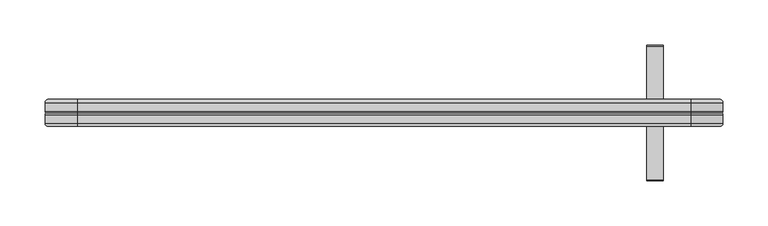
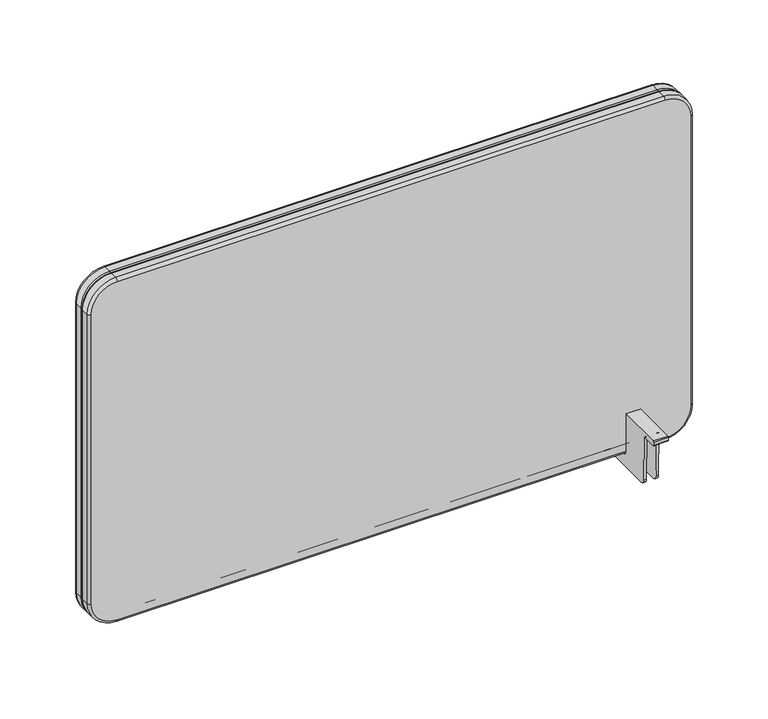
"""IFC4 building model written with IfcOpenShell, lengths in millimetres: furniture geometry, Vitra-Joyn_2-Accesories_rfa : Joyn 2 Platform - Central screen."""

import ifcopenshell
import ifcopenshell.guid

model = None  # the IFC model being written
_history = None  # IfcOwnerHistory: only IFC2X3 demands one
_inside = {}  # id of a spatial element -> (the spatial element, [elements in it])
_under = {}  # id of a project, library or spatial element -> (it, [spatial elements below it])
_declared = {}  # id of a project -> (the project, [libraries it declares])
_typed = {}  # id of a type object -> (the type object, [elements of that type])
_made_of = {}  # id of a material, layer set ... -> (it, [elements and type objects made of it])


def new_model(schema):
    """Start an empty IFC model of exactly this schema.

    Asked for "IFC4X3", IfcOpenShell would pick the latest addendum, in which some entities
    have other attributes; the version numbers below select the first issue.
    IFC2X3 requires an IfcOwnerHistory on every rooted entity: one is made here for all.
    """
    global model, _history
    if schema == "IFC4X3":
        model = ifcopenshell.file(schema_version=(4, 3, 0, 0))
    else:
        model = ifcopenshell.file(schema=schema)
    _inside.clear()
    _under.clear()
    _declared.clear()
    _typed.clear()
    _made_of.clear()
    _history = None
    if model.schema == "IFC2X3":
        org = make("IfcOrganization", Name="unknown")
        user = make(
            "IfcPersonAndOrganization",
            ThePerson=make("IfcPerson", FamilyName="unknown"),
            TheOrganization=org,
        )
        app = make(
            "IfcApplication",
            ApplicationDeveloper=org,
            Version="unknown",
            ApplicationFullName="unknown",
            ApplicationIdentifier="unknown",
        )
        _history = make(
            "IfcOwnerHistory",
            OwningUser=user,
            OwningApplication=app,
            ChangeAction="ADDED",
            CreationDate=0,
        )
    return model


def make(cls, **values):
    """One entity of the class cls with the attributes given. An attribute that is None is left unset."""
    return model.create_entity(
        cls, **{name: value for name, value in values.items() if value is not None}
    )


def rooted(cls, **values):
    """An entity with a GlobalId (a new one), such as an element, a storey or a relation."""
    return make(cls, GlobalId=ifcopenshell.guid.new(), OwnerHistory=_history, **values)


def si_unit(unit_type, name, prefix=None):
    """IfcSIUnit, for example si_unit("LENGTHUNIT", "METRE", prefix="MILLI")."""
    return make("IfcSIUnit", UnitType=unit_type, Prefix=prefix, Name=name)


def assignment(units):
    """IfcUnitAssignment: the units of a project."""
    return None if units is None else make("IfcUnitAssignment", Units=units)


def point(xyz):
    """IfcCartesianPoint."""
    return None if xyz is None else make("IfcCartesianPoint", Coordinates=xyz)


def direction(xyz):
    """IfcDirection."""
    return None if xyz is None else make("IfcDirection", DirectionRatios=xyz)


def frame(location, z_axis=None, x_axis=None):
    """IfcAxis2Placement3D, a coordinate frame: its origin and axes. An axis left out is left unset."""
    return make(
        "IfcAxis2Placement3D",
        Location=point(location),
        Axis=direction(z_axis),
        RefDirection=direction(x_axis),
    )


def origin():
    """The frame at (0, 0, 0) with its axes left unset."""
    return frame((0.0, 0.0, 0.0))


def place(relative_to, where):
    """IfcLocalPlacement: puts the frame where relative to a parent placement (None: the world)."""
    return make(
        "IfcLocalPlacement", PlacementRelTo=relative_to, RelativePlacement=where
    )


def context(
    kind, dimensions, precision=None, world=None, true_north=None, identifier=None
):
    """IfcGeometricRepresentationContext, for example the 3D "Model" context."""
    return make(
        "IfcGeometricRepresentationContext",
        ContextIdentifier=identifier,
        ContextType=kind,
        CoordinateSpaceDimension=dimensions,
        Precision=precision,
        WorldCoordinateSystem=world,
        TrueNorth=true_north,
    )


def project(units=None, contexts=None):
    """IfcProject with its units and contexts."""
    return rooted(
        "IfcProject",
        Name="project",
        RepresentationContexts=contexts,
        UnitsInContext=assignment(units),
    )


def spatial(cls, under=None, at=None, **own):
    """A site, building, storey or space (cls), placed at a placement, below another one or the project."""
    s = rooted(cls, ObjectPlacement=at, **own)
    if under is not None:
        _under.setdefault(under.id(), (under, []))[1].append(s)
    return s


def polyline(points):
    """IfcPolyline through the points."""
    return make("IfcPolyline", Points=[point(p) for p in points])


def circle_curve(where, radius):
    """IfcCircle in the frame where."""
    return make("IfcCircle", Position=where, Radius=radius)


def ellipse_curve(where, semi_axis1, semi_axis2):
    """IfcEllipse in the frame where."""
    return make(
        "IfcEllipse", Position=where, SemiAxis1=semi_axis1, SemiAxis2=semi_axis2
    )


def trimmed(basis, trim1, trim2, sense, master):
    """IfcTrimmedCurve: the piece of a basis curve between two trims."""
    return make(
        "IfcTrimmedCurve",
        BasisCurve=basis,
        Trim1=trim1,
        Trim2=trim2,
        SenseAgreement=sense,
        MasterRepresentation=master,
    )


def shape(context_of_items, identifier, shape_type, items):
    """IfcShapeRepresentation: the items that make up one representation, for example the "Body"."""
    return make(
        "IfcShapeRepresentation",
        ContextOfItems=context_of_items,
        RepresentationIdentifier=identifier,
        RepresentationType=shape_type,
        Items=items,
    )


def source(mapping_origin, context_of_items, identifier, shape_type, items):
    """IfcRepresentationMap: a shape defined once, which mapped items show again and again."""
    return make(
        "IfcRepresentationMap",
        MappingOrigin=mapping_origin,
        MappedRepresentation=shape(context_of_items, identifier, shape_type, items),
    )


def transform(
    local_origin,
    x_axis=None,
    y_axis=None,
    z_axis=None,
    scale=None,
    scale2=None,
    scale3=None,
    uniform=True,
):
    """IfcCartesianTransformationOperator3D, or its non-uniform kind. x_axis, y_axis, z_axis: its Axis1, 2, 3."""
    if uniform:
        return make(
            "IfcCartesianTransformationOperator3D",
            Axis1=direction(x_axis),
            Axis2=direction(y_axis),
            LocalOrigin=point(local_origin),
            Scale=scale,
            Axis3=direction(z_axis),
        )
    return make(
        "IfcCartesianTransformationOperator3DnonUniform",
        Axis1=direction(x_axis),
        Axis2=direction(y_axis),
        LocalOrigin=point(local_origin),
        Scale=scale,
        Axis3=direction(z_axis),
        Scale2=scale2,
        Scale3=scale3,
    )


def mapped(mapping_source, mapping_target):
    """IfcMappedItem: shows the shape of a source again, moved by a transform."""
    return make(
        "IfcMappedItem", MappingSource=mapping_source, MappingTarget=mapping_target
    )


def made_of(thing, what):
    """Note that an element or type object is made of a material, layer set ...; save() writes the relation."""
    if what is not None:
        _made_of.setdefault(what.id(), (what, []))[1].append(thing)
    return thing


def element(
    cls,
    number,
    at=None,
    inside=None,
    cuts=None,
    type_object=None,
    material=None,
    context=None,
    identifier="Body",
    shape_type=None,
    held_by="IfcProductDefinitionShape",
    body=None,
    shapes=None,
    **own,
):
    """One element of the class cls, such as IfcWall. Its Tag is "e" and its number.

    at: its placement. inside: the storey or other place that contains it. cuts: it is an
    opening in that element (IfcRelVoidsElement). A single representation is given by context,
    identifier, shape_type and body (its items); several are given by shapes. held_by: the class
    of the entity that holds the representations. save() writes the other relations.
    """
    e = rooted(cls, Tag="e%d" % number, ObjectPlacement=at, **own)
    if body is not None:
        shapes = [shape(context, identifier, shape_type, body)]
    if shapes is not None:
        e.Representation = make(held_by, Representations=shapes)
    if inside is not None:
        _inside.setdefault(inside.id(), (inside, []))[1].append(e)
    if cuts is not None:
        rooted(
            "IfcRelVoidsElement", RelatingBuildingElement=cuts, RelatedOpeningElement=e
        )
    if type_object is not None:
        _typed.setdefault(type_object.id(), (type_object, []))[1].append(e)
    return made_of(e, material)


def aggregate(whole, parts):
    """IfcRelAggregates: a whole, such as a stair, and the parts it consists of."""
    return rooted("IfcRelAggregates", RelatingObject=whole, RelatedObjects=parts)


def save(model, path):
    """Write the relations noted so far, then the file.

    IfcRelAggregates (storeys below a building ...), IfcRelContainedInSpatialStructure (elements
    in a storey), IfcRelDefinesByType, IfcRelAssociatesMaterial and IfcRelDeclares: one each for
    every whole, place, type object, material and project.
    """
    for whole, parts in _under.values():
        aggregate(whole, parts)
    for where, things in _inside.values():
        rooted(
            "IfcRelContainedInSpatialStructure",
            RelatedElements=things,
            RelatingStructure=where,
        )
    for kind, things in _typed.values():
        rooted("IfcRelDefinesByType", RelatedObjects=things, RelatingType=kind)
    for what, things in _made_of.values():
        rooted("IfcRelAssociatesMaterial", RelatedObjects=things, RelatingMaterial=what)
    for by, libraries in _declared.values():
        rooted("IfcRelDeclares", RelatingContext=by, RelatedDefinitions=libraries)
    model.write(path)


def plane_surface(at):
    """IfcPlane: the flat surface through the origin of the frame at, square to its z axis."""
    return make("IfcPlane", Position=at)


def cylinder_surface(at, radius):
    """IfcCylindricalSurface: all points at the distance radius from the z axis of the frame at."""
    return make("IfcCylindricalSurface", Position=at, Radius=radius)


def revolved_surface(curve, axis_point, axis_direction):
    """IfcSurfaceOfRevolution: the curve turned about the line through axis_point along axis_direction."""
    return make(
        "IfcSurfaceOfRevolution",
        SweptCurve=make("IfcArbitraryOpenProfileDef", ProfileType="CURVE", Curve=curve),
        AxisPosition=make("IfcAxis1Placement", Location=point(axis_point), Axis=direction(axis_direction)),
    )


def advanced_brep(points, edges, surfaces, faces):
    """IfcAdvancedBrep: a solid bounded by faces that lie on surfaces and meet in shared edges.

    An edge is (start, end): straight between two places in points (the first is 0);
    or (start, end, curve); or (start, end, curve, False) where it runs against its curve.
    A face is (place in surfaces, loops), or (place, loops, False) where it looks against
    its surface's normal. A loop lists edges by number (the first is 1), with a minus sign
    where the edge is run from its end to its start. The first loop is the outer one.
    """
    corners = [point(p) for p in points]
    vertices = [make("IfcVertexPoint", VertexGeometry=c) for c in corners]
    made = []
    for start, end, *more in edges:
        made.append(
            make(
                "IfcEdgeCurve",
                EdgeStart=vertices[start],
                EdgeEnd=vertices[end],
                EdgeGeometry=more[0] if more else make("IfcPolyline", Points=[corners[start], corners[end]]),
                SameSense=more[1] if len(more) > 1 else True,
            )
        )
    hull = []
    for where, loops, *sense in faces:
        bounds = []
        for j, loop in enumerate(loops):
            ring = [make("IfcOrientedEdge", EdgeElement=made[abs(k) - 1], Orientation=k > 0) for k in loop]
            bounds.append(
                make(
                    "IfcFaceOuterBound" if j == 0 else "IfcFaceBound",
                    Bound=make("IfcEdgeLoop", EdgeList=ring),
                    Orientation=True,
                )
            )
        hull.append(make("IfcAdvancedFace", Bounds=bounds, FaceSurface=surfaces[where], SameSense=sense[0] if sense else True))
    return make("IfcAdvancedBrep", Outer=make("IfcClosedShell", CfsFaces=hull))


def furniture_290953c2(model_context):
    return source(origin(), model_context, "Body", "AdvancedBrep", [
        advanced_brep(
        [(-339.48846, -15.0, 1139.6440871), (-371.48846, -15.0, 1107.6440871), (-371.48846, -15.0, 728.6604301), (-339.48846, -15.0, 696.6604301), (339.49464, -15.0, 696.6604301), (371.49464, -15.0, 728.6604301), (371.49464, -15.0, 1107.6440871), (339.49464, -15.0, 1139.6440871), (-371.48846, 15.0, 1107.6440849), (-339.48846, 15.0, 1139.6440871), (339.49464, 15.0, 1139.6440871), (371.49464, 15.0, 1107.6440871), (371.49464, 15.0, 728.6604314), (339.49464, 15.0, 696.6604301), (-339.4884579, 15.0, 696.6604301), (-371.48846, 15.0, 728.6604301), (-374.98846, 11.5, 1107.6440871), (-339.48846, 11.5, 1143.1440871), (-374.98846, 2.0, 1107.6440871), (-339.48846, 2.0, 1143.1440871), (-372.9920624, 0.0, 1107.6440871), (-339.48846, 0.0, 1141.1476895), (-374.98846, -2.0, 1107.6440871), (-339.48846, -2.0, 1143.1440871), (-374.98846, -11.5, 1107.6440871), (-339.48846, -11.5, 1143.1440871), (-374.98846, 11.5, 728.6604301), (-374.98846, 2.0, 728.6604301), (-372.9920624, 0.0, 728.6604301), (-374.98846, -2.0, 728.6604301), (-374.98846, -11.5, 728.6604301), (339.49464, 11.5, 1143.1440871), (339.49464, 2.0, 1143.1440871), (339.49464, 0.0, 1141.1476895), (339.49464, -2.0, 1143.1440871), (339.49464, -11.5, 1143.1440871), (-339.48846, 11.5, 693.1604301), (-339.48846, 2.0, 693.1604301), (-339.48846, 0.0, 695.1568276), (-339.48846, -2.0, 693.1604301), (-339.48846, -11.5, 693.1604301), (339.49464, 11.5, 693.1604301), (339.49464, 2.0, 693.1604301), (339.49464, 0.0, 695.1568276), (339.49464, -2.0, 693.1604301), (339.49464, -11.5, 693.1604301), (374.99464, 11.5, 728.6604301), (374.99464, 2.0, 728.6604301), (372.9982424, 0.0, 728.6604301), (374.99464, -2.0, 728.6604301), (374.99464, -11.5, 728.6604301), (374.99464, 11.5, 1107.6440871), (374.99464, 2.0, 1107.6440871), (372.9982424, 0.0, 1107.6440871), (374.99464, -2.0, 1107.6440871), (374.99464, -11.5, 1107.6440871)],
        [
            (0, 1, circle_curve(frame((-339.48846, -15.0, 1107.6440871), z_axis=(0.0, -1.0, 0.0), x_axis=(0.0, 0.0, 1.0)), 32.0)),
            (1, 2),
            (2, 3, circle_curve(frame((-339.48846, -15.0, 728.6604301), z_axis=(0.0, -1.0, 0.0), x_axis=(-1.0, 0.0, 0.0)), 32.0)),
            (3, 4),
            (4, 5, circle_curve(frame((339.49464, -15.0, 728.6604301), z_axis=(0.0, -1.0, 0.0), x_axis=(0.0, 0.0, -1.0)), 32.0)),
            (5, 6),
            (6, 7, circle_curve(frame((339.49464, -15.0, 1107.6440871), z_axis=(0.0, -1.0, 0.0), x_axis=(1.0, 0.0, 0.0)), 32.0)),
            (7, 0),
            (8, 9, circle_curve(frame((-339.48846, 15.0, 1107.6440871), z_axis=(0.0, 1.0, 0.0), x_axis=(0.0, 0.0, 1.0)), 32.0)),
            (9, 10),
            (10, 11, circle_curve(frame((339.49464, 15.0, 1107.6440871), z_axis=(0.0, 1.0, 0.0), x_axis=(1.0, 0.0, 0.0)), 32.0)),
            (11, 12),
            (12, 13, circle_curve(frame((339.49464, 15.0, 728.6604301), z_axis=(0.0, 1.0, 0.0), x_axis=(0.0, 0.0, -1.0)), 32.0)),
            (13, 14),
            (14, 15, circle_curve(frame((-339.48846, 15.0, 728.6604301), z_axis=(0.0, 1.0, 0.0), x_axis=(-1.0, 0.0, 0.0)), 32.0)),
            (15, 8),
            (16, 17, circle_curve(frame((-339.48846, 11.5, 1107.6440871), z_axis=(0.0, 1.0, 0.0), x_axis=(0.0, 0.0, 1.0)), 35.5)),
            (17, 9, circle_curve(frame((-339.48846, 11.5, 1139.6440871), z_axis=(-1.0, 0.0, 0.0), x_axis=(0.0, -1.0, 0.0)), 3.5)),
            (8, 16, circle_curve(frame((-371.48846, 11.5, 1107.6440871), z_axis=(0.0, 0.0, 1.0), x_axis=(0.0, -1.0, 0.0)), 3.5)),
            (16, 18),
            (18, 19, circle_curve(frame((-339.48846, 2.0, 1107.6440871), z_axis=(0.0, 1.0, 0.0), x_axis=(0.0, 0.0, 1.0)), 35.5)),
            (19, 17),
            (18, 20, circle_curve(frame((-372.9884567, 2.0, 1107.6440871), z_axis=(0.0, 0.0, 1.0), x_axis=(0.0, -1.0, 0.0)), 2.0000033)),
            (20, 21, circle_curve(frame((-339.48846, 0.0, 1107.6440871), z_axis=(0.0, 1.0, 0.0), x_axis=(0.0, 0.0, 1.0)), 33.5036024)),
            (21, 19, circle_curve(frame((-339.48846, 2.0, 1141.1440838), z_axis=(-1.0, 0.0, 0.0), x_axis=(0.0, -1.0, 0.0)), 2.0000033)),
            (20, 22, circle_curve(frame((-372.9884567, -2.0, 1107.6440871), z_axis=(0.0, 0.0, 1.0), x_axis=(0.0, 1.0, 0.0)), 2.0000033)),
            (22, 23, circle_curve(frame((-339.48846, -2.0, 1107.6440871), z_axis=(0.0, 1.0, 0.0), x_axis=(0.0, 0.0, 1.0)), 35.5)),
            (23, 21, circle_curve(frame((-339.48846, -2.0, 1141.1440838), z_axis=(-1.0, 0.0, 0.0), x_axis=(0.0, 1.0, 0.0)), 2.0000033)),
            (22, 24),
            (24, 25, circle_curve(frame((-339.48846, -11.5, 1107.6440871), z_axis=(0.0, 1.0, 0.0), x_axis=(0.0, 0.0, 1.0)), 35.5)),
            (25, 23),
            (24, 1, circle_curve(frame((-371.48846, -11.5, 1107.6440871), z_axis=(0.0, 0.0, 1.0), x_axis=(0.0, 1.0, 0.0)), 3.5)),
            (0, 25, circle_curve(frame((-339.48846, -11.5, 1139.6440871), z_axis=(-1.0, 0.0, 0.0), x_axis=(0.0, 1.0, 0.0)), 3.5)),
            (15, 26, circle_curve(frame((-371.48846, 11.5, 728.6604301), z_axis=(0.0, 0.0, 1.0), x_axis=(0.0, -1.0, 0.0)), 3.5)),
            (26, 16),
            (26, 27),
            (27, 18),
            (27, 28, circle_curve(frame((-372.9884567, 2.0, 728.6604301), z_axis=(0.0, 0.0, 1.0), x_axis=(0.0, -1.0, 0.0)), 2.0000033)),
            (28, 20),
            (28, 29, circle_curve(frame((-372.9884567, -2.0, 728.6604301), z_axis=(0.0, 0.0, 1.0), x_axis=(0.0, 1.0, 0.0)), 2.0000033)),
            (29, 22),
            (29, 30),
            (30, 24),
            (30, 2, circle_curve(frame((-371.48846, -11.5, 728.6604301), z_axis=(0.0, 0.0, 1.0), x_axis=(0.0, 1.0, 0.0)), 3.5)),
            (17, 31),
            (31, 10, circle_curve(frame((339.49464, 11.5, 1139.6440871), z_axis=(-1.0, 0.0, 0.0), x_axis=(0.0, -1.0, 0.0)), 3.5)),
            (19, 32),
            (32, 31),
            (21, 33),
            (33, 32, circle_curve(frame((339.49464, 2.0, 1141.1440838), z_axis=(-1.0, 0.0, 0.0), x_axis=(0.0, -1.0, 0.0)), 2.0000033)),
            (23, 34),
            (34, 33, circle_curve(frame((339.49464, -2.0, 1141.1440838), z_axis=(-1.0, 0.0, 0.0), x_axis=(0.0, 1.0, 0.0)), 2.0000033)),
            (25, 35),
            (35, 34),
            (7, 35, circle_curve(frame((339.49464, -11.5, 1139.6440871), z_axis=(-1.0, 0.0, 0.0), x_axis=(0.0, 1.0, 0.0)), 3.5)),
            (14, 36, circle_curve(frame((-339.48846, 11.5, 696.6604301), z_axis=(-1.0, 0.0, 0.0), x_axis=(0.0, -1.0, 0.0)), 3.5)),
            (36, 26, circle_curve(frame((-339.48846, 11.5, 728.6604301), z_axis=(0.0, 1.0, 0.0), x_axis=(-1.0, 0.0, 0.0)), 35.5)),
            (36, 37),
            (37, 27, circle_curve(frame((-339.48846, 2.0, 728.6604301), z_axis=(0.0, 1.0, 0.0), x_axis=(-1.0, 0.0, 0.0)), 35.5)),
            (37, 38, circle_curve(frame((-339.48846, 2.0, 695.1604333), z_axis=(-1.0, 0.0, 0.0), x_axis=(0.0, -1.0, 0.0)), 2.0000033)),
            (38, 28, circle_curve(frame((-339.48846, 0.0, 728.6604301), z_axis=(0.0, 1.0, 0.0), x_axis=(-1.0, 0.0, 0.0)), 33.5036024)),
            (38, 39, circle_curve(frame((-339.48846, -2.0, 695.1604333), z_axis=(-1.0, 0.0, 0.0), x_axis=(0.0, 1.0, 0.0)), 2.0000033)),
            (39, 29, circle_curve(frame((-339.48846, -2.0, 728.6604301), z_axis=(0.0, 1.0, 0.0), x_axis=(-1.0, 0.0, 0.0)), 35.5)),
            (39, 40),
            (40, 30, circle_curve(frame((-339.48846, -11.5, 728.6604301), z_axis=(0.0, 1.0, 0.0), x_axis=(-1.0, 0.0, 0.0)), 35.5)),
            (40, 3, circle_curve(frame((-339.48846, -11.5, 696.6604301), z_axis=(-1.0, 0.0, 0.0), x_axis=(0.0, 1.0, 0.0)), 3.5)),
            (13, 41, circle_curve(frame((339.49464, 11.5, 696.6604301), z_axis=(-1.0, 0.0, 0.0), x_axis=(0.0, -1.0, 0.0)), 3.5)),
            (41, 36),
            (41, 42),
            (42, 37),
            (42, 43, circle_curve(frame((339.49464, 2.0, 695.1604333), z_axis=(-1.0, 0.0, 0.0), x_axis=(0.0, -1.0, 0.0)), 2.0000033)),
            (43, 38),
            (43, 44, circle_curve(frame((339.49464, -2.0, 695.1604333), z_axis=(-1.0, 0.0, 0.0), x_axis=(0.0, 1.0, 0.0)), 2.0000033)),
            (44, 39),
            (44, 45),
            (45, 40),
            (45, 4, circle_curve(frame((339.49464, -11.5, 696.6604301), z_axis=(-1.0, 0.0, 0.0), x_axis=(0.0, 1.0, 0.0)), 3.5)),
            (12, 46, circle_curve(frame((371.49464, 11.5, 728.6604301), z_axis=(0.0, 0.0, -1.0), x_axis=(0.0, -1.0, 0.0)), 3.5)),
            (46, 41, circle_curve(frame((339.49464, 11.5, 728.6604301), z_axis=(0.0, 1.0, 0.0), x_axis=(0.0, 0.0, -1.0)), 35.5)),
            (46, 47),
            (47, 42, circle_curve(frame((339.49464, 2.0, 728.6604301), z_axis=(0.0, 1.0, 0.0), x_axis=(0.0, 0.0, -1.0)), 35.5)),
            (47, 48, circle_curve(frame((372.9946367, 2.0, 728.6604301), z_axis=(0.0, 0.0, -1.0), x_axis=(0.0, -1.0, 0.0)), 2.0000033)),
            (48, 43, circle_curve(frame((339.49464, 0.0, 728.6604301), z_axis=(0.0, 1.0, 0.0), x_axis=(0.0, 0.0, -1.0)), 33.5036024)),
            (48, 49, circle_curve(frame((372.9946367, -2.0, 728.6604301), z_axis=(0.0, 0.0, -1.0), x_axis=(0.0, 1.0, 0.0)), 2.0000033)),
            (49, 44, circle_curve(frame((339.49464, -2.0, 728.6604301), z_axis=(0.0, 1.0, 0.0), x_axis=(0.0, 0.0, -1.0)), 35.5)),
            (49, 50),
            (50, 45, circle_curve(frame((339.49464, -11.5, 728.6604301), z_axis=(0.0, 1.0, 0.0), x_axis=(0.0, 0.0, -1.0)), 35.5)),
            (50, 5, circle_curve(frame((371.49464, -11.5, 728.6604301), z_axis=(0.0, 0.0, -1.0), x_axis=(0.0, 1.0, 0.0)), 3.5)),
            (11, 51, circle_curve(frame((371.49464, 11.5, 1107.6440871), z_axis=(0.0, 0.0, -1.0), x_axis=(0.0, -1.0, 0.0)), 3.5)),
            (51, 46),
            (51, 52),
            (52, 47),
            (52, 53, circle_curve(frame((372.9946367, 2.0, 1107.6440871), z_axis=(0.0, 0.0, -1.0), x_axis=(0.0, -1.0, 0.0)), 2.0000033)),
            (53, 48),
            (53, 54, circle_curve(frame((372.9946367, -2.0, 1107.6440871), z_axis=(0.0, 0.0, -1.0), x_axis=(0.0, 1.0, 0.0)), 2.0000033)),
            (54, 49),
            (54, 55),
            (55, 50),
            (55, 6, circle_curve(frame((371.49464, -11.5, 1107.6440871), z_axis=(0.0, 0.0, -1.0), x_axis=(0.0, 1.0, 0.0)), 3.5)),
            (31, 51, circle_curve(frame((339.49464, 11.5, 1107.6440871), z_axis=(0.0, 1.0, 0.0), x_axis=(1.0, 0.0, 0.0)), 35.5)),
            (32, 52, circle_curve(frame((339.49464, 2.0, 1107.6440871), z_axis=(0.0, 1.0, 0.0), x_axis=(1.0, 0.0, 0.0)), 35.5)),
            (33, 53, circle_curve(frame((339.49464, 0.0, 1107.6440871), z_axis=(0.0, 1.0, 0.0), x_axis=(1.0, 0.0, 0.0)), 33.5036024)),
            (34, 54, circle_curve(frame((339.49464, -2.0, 1107.6440871), z_axis=(0.0, 1.0, 0.0), x_axis=(1.0, 0.0, 0.0)), 35.5)),
            (35, 55, circle_curve(frame((339.49464, -11.5, 1107.6440871), z_axis=(0.0, 1.0, 0.0), x_axis=(1.0, 0.0, 0.0)), 35.5)),
        ],
        [
            plane_surface(frame((-307.48846, -15.0, 728.6604301), z_axis=(0.0, -1.0, 0.0), x_axis=(0.0, 0.0, 1.0))),
            plane_surface(frame((-307.48846, 15.0, 728.6604301), z_axis=(0.0, 1.0, 0.0), x_axis=(0.0, 0.0, -1.0))),
            revolved_surface(trimmed(ellipse_curve(frame((-339.48846, 11.5, 1139.6440871), z_axis=(1.0, 0.0, 0.0), x_axis=(0.0, -1.0, 0.0)), 3.5, 3.5), [point((-339.48846, 15.0, 1139.6440871))], [point((-339.48846, 11.5, 1143.1440871))], True, "CARTESIAN"), (-339.48846, -15.0, 1107.6440871), (0.0, -1.0, 0.0)),
            cylinder_surface(frame((-339.48846, -15.0, 1107.6440871), z_axis=(0.0, -1.0, 0.0), x_axis=(0.0, 0.0, 1.0)), 35.5),
            revolved_surface(trimmed(ellipse_curve(frame((-339.48846, 2.0, 1141.1440838), z_axis=(1.0, 0.0, 0.0), x_axis=(0.0, -1.0, 0.0)), 2.0000033, 2.0000033), [point((-339.48846, 2.0, 1143.1440871))], [point((-339.48846, 0.0, 1141.1476895))], True, "CARTESIAN"), (-339.48846, -15.0, 1107.6440871), (0.0, -1.0, 0.0)),
            revolved_surface(trimmed(ellipse_curve(frame((-339.48846, -2.0, 1141.1440838), z_axis=(1.0, 0.0, 0.0), x_axis=(0.0, 1.0, 0.0)), 2.0000033, 2.0000033), [point((-339.48846, 0.0, 1141.1476895))], [point((-339.48846, -2.0, 1143.1440871))], True, "CARTESIAN"), (-339.48846, -15.0, 1107.6440871), (0.0, -1.0, 0.0)),
            revolved_surface(trimmed(ellipse_curve(frame((-339.48846, -11.5, 1139.6440871), z_axis=(1.0, 0.0, 0.0), x_axis=(0.0, 1.0, 0.0)), 3.5, 3.5), [point((-339.48846, -11.5, 1143.1440871))], [point((-339.48846, -15.0, 1139.6440871))], True, "CARTESIAN"), (-339.48846, -15.0, 1107.6440871), (0.0, -1.0, 0.0)),
            cylinder_surface(frame((-371.48846, 11.5, 1107.6440871), z_axis=(0.0, 0.0, 1.0), x_axis=(0.0, -1.0, 0.0)), 3.5),
            plane_surface(frame((-374.98846, 11.5, 1107.6440871), z_axis=(-1.0, 0.0, 0.0), x_axis=(0.0, 0.0, -1.0))),
            cylinder_surface(frame((-372.9884567, 2.0, 1107.6440871), z_axis=(0.0, 0.0, 1.0), x_axis=(0.0, -1.0, 0.0)), 2.0000033),
            cylinder_surface(frame((-372.9884567, -2.0, 1107.6440871), z_axis=(0.0, 0.0, 1.0), x_axis=(0.0, 1.0, 0.0)), 2.0000033),
            plane_surface(frame((-374.98846, -2.0, 1107.6440871), z_axis=(-1.0, 0.0, 0.0), x_axis=(0.0, 0.0, -1.0))),
            cylinder_surface(frame((-371.48846, -11.5, 1107.6440871), z_axis=(0.0, 0.0, 1.0), x_axis=(0.0, 1.0, 0.0)), 3.5),
            cylinder_surface(frame((339.49464, 11.5, 1139.6440871), z_axis=(1.0, 0.0, 0.0), x_axis=(0.0, -1.0, 0.0)), 3.5),
            plane_surface(frame((339.49464, 11.5, 1143.1440871), z_axis=(0.0, 0.0, 1.0), x_axis=(-1.0, 0.0, 0.0))),
            cylinder_surface(frame((339.49464, 2.0, 1141.1440838), z_axis=(1.0, 0.0, 0.0), x_axis=(0.0, -1.0, 0.0)), 2.0000033),
            cylinder_surface(frame((339.49464, -2.0, 1141.1440838), z_axis=(1.0, 0.0, 0.0), x_axis=(0.0, 1.0, 0.0)), 2.0000033),
            plane_surface(frame((339.49464, -2.0, 1143.1440871), z_axis=(0.0, 0.0, 1.0), x_axis=(-1.0, 0.0, 0.0))),
            cylinder_surface(frame((339.49464, -11.5, 1139.6440871), z_axis=(1.0, 0.0, 0.0), x_axis=(0.0, 1.0, 0.0)), 3.5),
            revolved_surface(trimmed(ellipse_curve(frame((-371.48846, 11.5, 728.6604301), z_axis=(0.0, 0.0, 1.0), x_axis=(0.0, -1.0, 0.0)), 3.5, 3.5), [point((-371.48846, 15.0, 728.6604301))], [point((-374.98846, 11.5, 728.6604301))], True, "CARTESIAN"), (-339.48846, -15.0, 728.6604301), (0.0, -1.0, 0.0)),
            cylinder_surface(frame((-339.48846, -15.0, 728.6604301), z_axis=(0.0, -1.0, 0.0), x_axis=(-1.0, 0.0, 0.0)), 35.5),
            revolved_surface(trimmed(ellipse_curve(frame((-372.9884567, 2.0, 728.6604301), z_axis=(0.0, 0.0, 1.0), x_axis=(0.0, -1.0, 0.0)), 2.0000033, 2.0000033), [point((-374.98846, 2.0, 728.6604301))], [point((-372.9920624, 0.0, 728.6604301))], True, "CARTESIAN"), (-339.48846, -15.0, 728.6604301), (0.0, -1.0, 0.0)),
            revolved_surface(trimmed(ellipse_curve(frame((-372.9884567, -2.0, 728.6604301), z_axis=(0.0, 0.0, 1.0), x_axis=(0.0, 1.0, 0.0)), 2.0000033, 2.0000033), [point((-372.9920624, 0.0, 728.6604301))], [point((-374.98846, -2.0, 728.6604301))], True, "CARTESIAN"), (-339.48846, -15.0, 728.6604301), (0.0, -1.0, 0.0)),
            revolved_surface(trimmed(ellipse_curve(frame((-371.48846, -11.5, 728.6604301), z_axis=(0.0, 0.0, 1.0), x_axis=(0.0, 1.0, 0.0)), 3.5, 3.5), [point((-374.98846, -11.5, 728.6604301))], [point((-371.48846, -15.0, 728.6604301))], True, "CARTESIAN"), (-339.48846, -15.0, 728.6604301), (0.0, -1.0, 0.0)),
            cylinder_surface(frame((-339.48846, 11.5, 696.6604301), z_axis=(-1.0, 0.0, 0.0), x_axis=(0.0, -1.0, 0.0)), 3.5),
            plane_surface(frame((-339.48846, 11.5, 693.1604301), z_axis=(0.0, 0.0, -1.0), x_axis=(1.0, 0.0, 0.0))),
            cylinder_surface(frame((-339.48846, 2.0, 695.1604333), z_axis=(-1.0, 0.0, 0.0), x_axis=(0.0, -1.0, 0.0)), 2.0000033),
            cylinder_surface(frame((-339.48846, -2.0, 695.1604333), z_axis=(-1.0, 0.0, 0.0), x_axis=(0.0, 1.0, 0.0)), 2.0000033),
            plane_surface(frame((-339.48846, -2.0, 693.1604301), z_axis=(0.0, 0.0, -1.0), x_axis=(1.0, 0.0, 0.0))),
            cylinder_surface(frame((-339.48846, -11.5, 696.6604301), z_axis=(-1.0, 0.0, 0.0), x_axis=(0.0, 1.0, 0.0)), 3.5),
            revolved_surface(trimmed(ellipse_curve(frame((339.49464, 11.5, 696.6604301), z_axis=(-1.0, 0.0, 0.0), x_axis=(0.0, -1.0, 0.0)), 3.5, 3.5), [point((339.49464, 15.0, 696.6604301))], [point((339.49464, 11.5, 693.1604301))], True, "CARTESIAN"), (339.49464, -15.0, 728.6604301), (0.0, -1.0, 0.0)),
            cylinder_surface(frame((339.49464, -15.0, 728.6604301), z_axis=(0.0, -1.0, 0.0), x_axis=(0.0, 0.0, -1.0)), 35.5),
            revolved_surface(trimmed(ellipse_curve(frame((339.49464, 2.0, 695.1604333), z_axis=(-1.0, 0.0, 0.0), x_axis=(0.0, -1.0, 0.0)), 2.0000033, 2.0000033), [point((339.49464, 2.0, 693.1604301))], [point((339.49464, 0.0, 695.1568276))], True, "CARTESIAN"), (339.49464, -15.0, 728.6604301), (0.0, -1.0, 0.0)),
            revolved_surface(trimmed(ellipse_curve(frame((339.49464, -2.0, 695.1604333), z_axis=(-1.0, 0.0, 0.0), x_axis=(0.0, 1.0, 0.0)), 2.0000033, 2.0000033), [point((339.49464, 0.0, 695.1568276))], [point((339.49464, -2.0, 693.1604301))], True, "CARTESIAN"), (339.49464, -15.0, 728.6604301), (0.0, -1.0, 0.0)),
            revolved_surface(trimmed(ellipse_curve(frame((339.49464, -11.5, 696.6604301), z_axis=(-1.0, 0.0, 0.0), x_axis=(0.0, 1.0, 0.0)), 3.5, 3.5), [point((339.49464, -11.5, 693.1604301))], [point((339.49464, -15.0, 696.6604301))], True, "CARTESIAN"), (339.49464, -15.0, 728.6604301), (0.0, -1.0, 0.0)),
            cylinder_surface(frame((371.49464, 11.5, 728.6604301), z_axis=(0.0, 0.0, -1.0), x_axis=(0.0, -1.0, 0.0)), 3.5),
            plane_surface(frame((374.99464, 11.5, 728.6604301), z_axis=(1.0, 0.0, 0.0), x_axis=(0.0, 0.0, 1.0))),
            cylinder_surface(frame((372.9946367, 2.0, 728.6604301), z_axis=(0.0, 0.0, -1.0), x_axis=(0.0, -1.0, 0.0)), 2.0000033),
            cylinder_surface(frame((372.9946367, -2.0, 728.6604301), z_axis=(0.0, 0.0, -1.0), x_axis=(0.0, 1.0, 0.0)), 2.0000033),
            plane_surface(frame((374.99464, -2.0, 728.6604301), z_axis=(1.0, 0.0, 0.0), x_axis=(0.0, 0.0, 1.0))),
            cylinder_surface(frame((371.49464, -11.5, 728.6604301), z_axis=(0.0, 0.0, -1.0), x_axis=(0.0, 1.0, 0.0)), 3.5),
            revolved_surface(trimmed(ellipse_curve(frame((371.49464, 11.5, 1107.6440871), z_axis=(0.0, 0.0, -1.0), x_axis=(0.0, -1.0, 0.0)), 3.5, 3.5), [point((371.49464, 15.0, 1107.6440871))], [point((374.99464, 11.5, 1107.6440871))], True, "CARTESIAN"), (339.49464, -15.0, 1107.6440871), (0.0, -1.0, 0.0)),
            cylinder_surface(frame((339.49464, -15.0, 1107.6440871), z_axis=(0.0, -1.0, 0.0), x_axis=(1.0, 0.0, 0.0)), 35.5),
            revolved_surface(trimmed(ellipse_curve(frame((372.9946367, 2.0, 1107.6440871), z_axis=(0.0, 0.0, -1.0), x_axis=(0.0, -1.0, 0.0)), 2.0000033, 2.0000033), [point((374.99464, 2.0, 1107.6440871))], [point((372.9982424, 0.0, 1107.6440871))], True, "CARTESIAN"), (339.49464, -15.0, 1107.6440871), (0.0, -1.0, 0.0)),
            revolved_surface(trimmed(ellipse_curve(frame((372.9946367, -2.0, 1107.6440871), z_axis=(0.0, 0.0, -1.0), x_axis=(0.0, 1.0, 0.0)), 2.0000033, 2.0000033), [point((372.9982424, 0.0, 1107.6440871))], [point((374.99464, -2.0, 1107.6440871))], True, "CARTESIAN"), (339.49464, -15.0, 1107.6440871), (0.0, -1.0, 0.0)),
            revolved_surface(trimmed(ellipse_curve(frame((371.49464, -11.5, 1107.6440871), z_axis=(0.0, 0.0, -1.0), x_axis=(0.0, 1.0, 0.0)), 3.5, 3.5), [point((374.99464, -11.5, 1107.6440871))], [point((371.49464, -15.0, 1107.6440871))], True, "CARTESIAN"), (339.49464, -15.0, 1107.6440871), (0.0, -1.0, 0.0)),
        ],
        [
            (0, [[1, 2, 3, 4, 5, 6, 7, 8]]),
            (1, [[9, 10, 11, 12, 13, 14, 15, 16]]),
            (2, [[17, 18, -9, 19]]),
            (3, [[-17, 20, 21, 22]]),
            (4, [[-21, 23, 24, 25]]),
            (5, [[-24, 26, 27, 28]]),
            (3, [[-27, 29, 30, 31]]),
            (6, [[-30, 32, -1, 33]]),
            (7, [[-19, -16, 34, 35]]),
            (8, [[-20, -35, 36, 37]]),
            (9, [[-23, -37, 38, 39]]),
            (10, [[-26, -39, 40, 41]]),
            (11, [[-29, -41, 42, 43]]),
            (12, [[-32, -43, 44, -2]]),
            (13, [[-18, 45, 46, -10]]),
            (14, [[-22, 47, 48, -45]]),
            (15, [[-25, 49, 50, -47]]),
            (16, [[-28, 51, 52, -49]]),
            (17, [[-31, 53, 54, -51]]),
            (18, [[-33, -8, 55, -53]]),
            (19, [[-34, -15, 56, 57]]),
            (20, [[-36, -57, 58, 59]]),
            (21, [[-38, -59, 60, 61]]),
            (22, [[-40, -61, 62, 63]]),
            (20, [[-42, -63, 64, 65]]),
            (23, [[-44, -65, 66, -3]]),
            (24, [[-56, -14, 67, 68]]),
            (25, [[-58, -68, 69, 70]]),
            (26, [[-60, -70, 71, 72]]),
            (27, [[-62, -72, 73, 74]]),
            (28, [[-64, -74, 75, 76]]),
            (29, [[-66, -76, 77, -4]]),
            (30, [[-67, -13, 78, 79]]),
            (31, [[-69, -79, 80, 81]]),
            (32, [[-71, -81, 82, 83]]),
            (33, [[-73, -83, 84, 85]]),
            (31, [[-75, -85, 86, 87]]),
            (34, [[-77, -87, 88, -5]]),
            (35, [[-78, -12, 89, 90]]),
            (36, [[-80, -90, 91, 92]]),
            (37, [[-82, -92, 93, 94]]),
            (38, [[-84, -94, 95, 96]]),
            (39, [[-86, -96, 97, 98]]),
            (40, [[-88, -98, 99, -6]]),
            (41, [[-46, 100, -89, -11]]),
            (42, [[-48, 101, -91, -100]]),
            (43, [[-50, 102, -93, -101]]),
            (44, [[-52, 103, -95, -102]]),
            (42, [[-54, 104, -97, -103]]),
            (45, [[-55, -7, -99, -104]]),
        ],
    ),
        advanced_brep(
        [(291.0364402, 73.9844222, 740.0000042), (291.0364402, 56.9199376, 740.0000042), (291.0364402, 54.9201688, 738.0304169), (291.0364402, 54.0742678, 682.4087535), (291.0364402, 48.0749615, 676.4999917), (291.0364402, 0.0, 676.4999917), (291.0364402, -48.0749615, 676.4999917), (291.0364402, -54.0742678, 682.4087535), (291.0364402, -54.9201688, 738.0304169), (291.0364402, -56.9199376, 740.0000042), (291.0364402, -73.9844222, 740.0000042), (291.0364402, -74.9844222, 741.0000042), (291.0364402, -74.9844222, 744.999986), (291.0364402, -73.9844222, 745.999986), (291.0364402, -14.9999234, 745.999986), (291.0364402, -14.9999234, 694.447068), (291.0364402, -11.9999234, 691.447068), (291.0364402, 0.0, 691.447068), (291.0364402, 11.9999234, 691.447068), (291.0364402, 14.9999234, 694.447068), (291.0364402, 14.9999234, 745.999986), (291.0364402, 73.9844222, 745.999986), (291.0364402, 74.9844222, 744.999986), (291.0364402, 74.9844222, 741.0000042), (309.0, 73.9844222, 740.0000042), (309.0, 74.9844222, 741.0000042), (309.0, 74.9844222, 744.999986), (309.0, 73.9844222, 745.999986), (309.0, 14.9999234, 745.999986), (309.0, 14.9999234, 694.447068), (309.0, 11.9999234, 691.447068), (309.0, 0.0, 691.447068), (309.0, -11.9999234, 691.447068), (309.0, -14.9999234, 694.447068), (309.0, -14.9999234, 745.999986), (309.0, -73.9844222, 745.999986), (309.0, -74.9844222, 744.999986), (309.0, -74.9844222, 741.0000042), (309.0, -73.9844222, 740.0000042), (309.0, -56.9199376, 740.0000042), (309.0, -54.9201688, 738.0304169), (309.0, -54.0742678, 682.4087535), (309.0, -48.0749615, 676.4999917), (309.0, 0.0, 676.4999917), (309.0, 48.0749615, 676.4999917), (309.0, 54.0742678, 682.4087535), (309.0, 54.9201688, 738.0304169), (309.0, 56.9199376, 740.0000042), (294.0, -56.9199376, 740.0000042), (294.0, -71.9492912, 740.0000042), (306.0, -71.9492912, 740.0000042), (306.0, -56.9199376, 740.0000042), (294.0, -54.9201688, 738.0304169), (306.0, -54.9201688, 738.0304169), (294.0, -54.0742678, 682.4087535), (306.0, -54.0742678, 682.4087535), (294.0, -48.0749615, 676.4999917), (306.0, -48.0749615, 676.4999917), (294.0, 0.0, 676.4999917), (306.0, 0.0, 676.4999917), (294.0, 48.0749615, 676.4999917), (306.0, 48.0749615, 676.4999917), (294.0, 54.0742678, 682.4087535), (306.0, 54.0742678, 682.4087535), (294.0, 54.9201688, 738.0304169), (306.0, 54.9201688, 738.0304169), (294.0, 56.9199376, 740.0000042), (306.0, 56.9199376, 740.0000042), (306.0, 71.9492912, 740.0000042), (294.0, 71.9492912, 740.0000042), (294.0, 71.9492912, 743.4999863), (294.0, 17.4999234, 743.4999863), (294.0, 17.4999234, 694.447068), (294.0, 11.9999234, 688.947068), (294.0, 0.0, 688.947068), (294.0, -11.9999234, 688.947068), (294.0, -17.4999234, 694.447068), (294.0, -17.4999234, 743.4999863), (294.0, -71.9492912, 743.4999863), (306.0, -71.9492912, 743.4999863), (306.0, -17.4999234, 743.4999863), (306.0, -17.4999234, 694.447068), (306.0, -11.9999234, 688.947068), (306.0, 0.0, 688.947068), (306.0, 11.9999234, 688.947068), (306.0, 17.4999234, 694.447068), (306.0, 17.4999234, 743.4999863), (306.0, 71.9492912, 743.4999863)],
        [
            (0, 1),
            (1, 2, circle_curve(frame((291.0364402, 56.9199376, 738.0000042), z_axis=(1.0, 0.0, 0.0), x_axis=(0.0, -1.0, 0.0)), 2.0)),
            (2, 3),
            (3, 4, circle_curve(frame((291.0364402, 48.0749615, 682.4999917), z_axis=(-1.0, 0.0, 0.0), x_axis=(0.0, -1.0, 0.0)), 6.0)),
            (4, 5),
            (5, 6),
            (6, 7, circle_curve(frame((291.0364402, -48.0749615, 682.4999917), z_axis=(-1.0, 0.0, 0.0), x_axis=(0.0, 1.0, 0.0)), 6.0)),
            (7, 8),
            (8, 9, circle_curve(frame((291.0364402, -56.9199376, 738.0000042), z_axis=(1.0, 0.0, 0.0), x_axis=(0.0, 1.0, 0.0)), 2.0)),
            (9, 10),
            (10, 11, circle_curve(frame((291.0364402, -73.9844222, 741.0000042), z_axis=(-1.0, 0.0, 0.0), x_axis=(0.0, 1.0, 0.0)), 1.0)),
            (11, 12),
            (12, 13, circle_curve(frame((291.0364402, -73.9844222, 744.999986), z_axis=(-1.0, 0.0, 0.0), x_axis=(0.0, 1.0, 0.0)), 1.0)),
            (13, 14),
            (14, 15),
            (15, 16, circle_curve(frame((291.0364402, -11.9999234, 694.447068), z_axis=(1.0, 0.0, 0.0), x_axis=(0.0, 1.0, 0.0)), 3.0)),
            (16, 17),
            (17, 18),
            (18, 19, circle_curve(frame((291.0364402, 11.9999234, 694.447068), z_axis=(1.0, 0.0, 0.0), x_axis=(0.0, -1.0, 0.0)), 3.0)),
            (19, 20),
            (20, 21),
            (21, 22, circle_curve(frame((291.0364402, 73.9844222, 744.999986), z_axis=(-1.0, 0.0, 0.0), x_axis=(0.0, -1.0, 0.0)), 1.0)),
            (22, 23),
            (23, 0, circle_curve(frame((291.0364402, 73.9844222, 741.0000042), z_axis=(-1.0, 0.0, 0.0), x_axis=(0.0, -1.0, 0.0)), 1.0)),
            (24, 25, circle_curve(frame((309.0, 73.9844222, 741.0000042), z_axis=(1.0, 0.0, 0.0), x_axis=(0.0, -1.0, 0.0)), 1.0)),
            (25, 26),
            (26, 27, circle_curve(frame((309.0, 73.9844222, 744.999986), z_axis=(1.0, 0.0, 0.0), x_axis=(0.0, -1.0, 0.0)), 1.0)),
            (27, 28),
            (28, 29),
            (29, 30, circle_curve(frame((309.0, 11.9999234, 694.447068), z_axis=(-1.0, 0.0, 0.0), x_axis=(0.0, -1.0, 0.0)), 3.0)),
            (30, 31),
            (31, 32),
            (32, 33, circle_curve(frame((309.0, -11.9999234, 694.447068), z_axis=(-1.0, 0.0, 0.0), x_axis=(0.0, 1.0, 0.0)), 3.0)),
            (33, 34),
            (34, 35),
            (35, 36, circle_curve(frame((309.0, -73.9844222, 744.999986), z_axis=(1.0, 0.0, 0.0), x_axis=(0.0, 1.0, 0.0)), 1.0)),
            (36, 37),
            (37, 38, circle_curve(frame((309.0, -73.9844222, 741.0000042), z_axis=(1.0, 0.0, 0.0), x_axis=(0.0, 1.0, 0.0)), 1.0)),
            (38, 39),
            (39, 40, circle_curve(frame((309.0, -56.9199376, 738.0000042), z_axis=(-1.0, 0.0, 0.0), x_axis=(0.0, 1.0, 0.0)), 2.0)),
            (40, 41),
            (41, 42, circle_curve(frame((309.0, -48.0749615, 682.4999917), z_axis=(1.0, 0.0, 0.0), x_axis=(0.0, 1.0, 0.0)), 6.0)),
            (42, 43),
            (43, 44),
            (44, 45, circle_curve(frame((309.0, 48.0749615, 682.4999917), z_axis=(1.0, 0.0, 0.0), x_axis=(0.0, -1.0, 0.0)), 6.0)),
            (45, 46),
            (46, 47, circle_curve(frame((309.0, 56.9199376, 738.0000042), z_axis=(-1.0, 0.0, 0.0), x_axis=(0.0, -1.0, 0.0)), 2.0)),
            (47, 24),
            (23, 25),
            (24, 0),
            (22, 26),
            (21, 27),
            (20, 28),
            (19, 29),
            (18, 30),
            (17, 31),
            (16, 32),
            (15, 33),
            (14, 34),
            (13, 35),
            (12, 36),
            (11, 37),
            (10, 38),
            (9, 48),
            (48, 49),
            (49, 50),
            (50, 51),
            (51, 39),
            (8, 52),
            (52, 48, circle_curve(frame((294.0, -56.9199376, 738.0000042), z_axis=(1.0, 0.0, 0.0), x_axis=(0.0, 1.0, 0.0)), 2.0)),
            (51, 53, circle_curve(frame((306.0, -56.9199376, 738.0000042), z_axis=(-1.0, 0.0, 0.0), x_axis=(0.0, 1.0, 0.0)), 2.0)),
            (53, 40),
            (7, 54),
            (54, 52),
            (53, 55),
            (55, 41),
            (6, 56),
            (56, 54, circle_curve(frame((294.0, -48.0749615, 682.4999917), z_axis=(-1.0, 0.0, 0.0), x_axis=(0.0, 1.0, 0.0)), 6.0)),
            (55, 57, circle_curve(frame((306.0, -48.0749615, 682.4999917), z_axis=(1.0, 0.0, 0.0), x_axis=(0.0, 1.0, 0.0)), 6.0)),
            (57, 42),
            (5, 58),
            (58, 56),
            (57, 59),
            (59, 43),
            (4, 60),
            (60, 58),
            (59, 61),
            (61, 44),
            (3, 62),
            (62, 60, circle_curve(frame((294.0, 48.0749615, 682.4999917), z_axis=(-1.0, 0.0, 0.0), x_axis=(0.0, -1.0, 0.0)), 6.0)),
            (61, 63, circle_curve(frame((306.0, 48.0749615, 682.4999917), z_axis=(1.0, 0.0, 0.0), x_axis=(0.0, -1.0, 0.0)), 6.0)),
            (63, 45),
            (2, 64),
            (64, 62),
            (63, 65),
            (65, 46),
            (1, 66),
            (66, 64, circle_curve(frame((294.0, 56.9199376, 738.0000042), z_axis=(1.0, 0.0, 0.0), x_axis=(0.0, -1.0, 0.0)), 2.0)),
            (65, 67, circle_curve(frame((306.0, 56.9199376, 738.0000042), z_axis=(-1.0, 0.0, 0.0), x_axis=(0.0, -1.0, 0.0)), 2.0)),
            (67, 47),
            (67, 68),
            (68, 69),
            (69, 66),
            (69, 70),
            (70, 71),
            (71, 72),
            (72, 73, circle_curve(frame((294.0, 11.9999234, 694.447068), z_axis=(-1.0, 0.0, 0.0), x_axis=(0.0, -1.0, 0.0)), 5.5)),
            (73, 74),
            (74, 75),
            (75, 76, circle_curve(frame((294.0, -11.9999234, 694.447068), z_axis=(-1.0, 0.0, 0.0), x_axis=(0.0, 1.0, 0.0)), 5.5)),
            (76, 77),
            (77, 78),
            (78, 49),
            (50, 79),
            (79, 80),
            (80, 81),
            (81, 82, circle_curve(frame((306.0, -11.9999234, 694.447068), z_axis=(1.0, 0.0, 0.0), x_axis=(0.0, 1.0, 0.0)), 5.5)),
            (82, 83),
            (83, 84),
            (84, 85, circle_curve(frame((306.0, 11.9999234, 694.447068), z_axis=(1.0, 0.0, 0.0), x_axis=(0.0, -1.0, 0.0)), 5.5)),
            (85, 86),
            (86, 87),
            (87, 68),
            (78, 79),
            (77, 80),
            (76, 81),
            (75, 82),
            (74, 83),
            (73, 84),
            (72, 85),
            (71, 86),
            (70, 87),
        ],
        [
            plane_surface(frame((291.0364402, 72.9844222, 741.0000042), z_axis=(-1.0, 0.0, 0.0), x_axis=(0.0, 0.0, 1.0))),
            plane_surface(frame((309.0, 72.9844222, 741.0000042), z_axis=(1.0, 0.0, 0.0), x_axis=(0.0, 0.0, -1.0))),
            cylinder_surface(frame((291.0364402, 73.9844222, 741.0000042), z_axis=(1.0, 0.0, 0.0), x_axis=(0.0, -1.0, 0.0)), 1.0),
            plane_surface(frame((309.0, 74.9844222, 741.0000042), z_axis=(0.0, 1.0, 0.0), x_axis=(-1.0, 0.0, 0.0))),
            cylinder_surface(frame((291.0364402, 73.9844222, 744.999986), z_axis=(1.0, 0.0, 0.0), x_axis=(0.0, -1.0, 0.0)), 1.0),
            plane_surface(frame((309.0, 73.9844222, 745.999986), z_axis=(0.0, 0.0, 1.0), x_axis=(-1.0, 0.0, 0.0))),
            plane_surface(frame((309.0, 14.9999234, 745.999986), z_axis=(0.0, -1.0, 0.0), x_axis=(-1.0, 0.0, 0.0))),
            revolved_surface(polyline([(291.0364402, 8.9999234, 694.447068), (309.0, 8.9999234, 694.447068)]), (291.0364402, 11.9999234, 694.447068), (-1.0, 0.0, 0.0)),
            plane_surface(frame((309.0, 11.9999234, 691.447068), z_axis=(0.0, 0.0, 1.0), x_axis=(-1.0, 0.0, 0.0))),
            plane_surface(frame((309.0, 0.0, 691.447068), z_axis=(0.0, 0.0, 1.0), x_axis=(-1.0, 0.0, 0.0))),
            revolved_surface(polyline([(291.0364402, -8.9999234, 694.447068), (309.0, -8.9999234, 694.447068)]), (291.0364402, -11.9999234, 694.447068), (-1.0, 0.0, 0.0)),
            plane_surface(frame((309.0, -14.9999234, 694.447068), z_axis=(0.0, 1.0, 0.0), x_axis=(-1.0, 0.0, 0.0))),
            plane_surface(frame((309.0, -14.9999234, 745.999986), z_axis=(0.0, 0.0, 1.0), x_axis=(-1.0, 0.0, 0.0))),
            cylinder_surface(frame((291.0364402, -73.9844222, 744.999986), z_axis=(1.0, 0.0, 0.0), x_axis=(0.0, 1.0, 0.0)), 1.0),
            plane_surface(frame((309.0, -74.9844222, 744.999986), z_axis=(0.0, -1.0, 0.0), x_axis=(-1.0, 0.0, 0.0))),
            cylinder_surface(frame((291.0364402, -73.9844222, 741.0000042), z_axis=(1.0, 0.0, 0.0), x_axis=(0.0, 1.0, 0.0)), 1.0),
            plane_surface(frame((309.0, -73.9844222, 740.0000042), z_axis=(0.0, 0.0, -1.0), x_axis=(-1.0, 0.0, 0.0))),
            revolved_surface(polyline([(291.0364402, -54.9199376, 738.0000042), (294.0, -54.9199376, 738.0000042)]), (291.0364402, -56.9199376, 738.0000042), (-1.0, 0.0, 0.0)),
            revolved_surface(polyline([(306.0, -54.9199376, 738.0000042), (309.0, -54.9199376, 738.0000042)]), (291.0364402, -56.9199376, 738.0000042), (-1.0, 0.0, 0.0)),
            plane_surface(frame((309.0, -54.9201688, 738.0304169), z_axis=(0.0, -0.9998843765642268, -0.015206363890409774), x_axis=(-1.0, 0.0, 0.0))),
            cylinder_surface(frame((291.0364402, -48.0749615, 682.4999917), z_axis=(1.0, 0.0, 0.0), x_axis=(0.0, 1.0, 0.0)), 6.0),
            plane_surface(frame((309.0, -48.0749615, 676.4999917), z_axis=(0.0, 0.0, -1.0), x_axis=(-1.0, 0.0, 0.0))),
            plane_surface(frame((309.0, 0.0, 676.4999917), z_axis=(0.0, 0.0, -1.0), x_axis=(-1.0, 0.0, 0.0))),
            cylinder_surface(frame((291.0364402, 48.0749615, 682.4999917), z_axis=(1.0, 0.0, 0.0), x_axis=(0.0, -1.0, 0.0)), 6.0),
            plane_surface(frame((309.0, 54.0742678, 682.4087535), z_axis=(0.0, 0.9998843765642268, -0.015206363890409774), x_axis=(-1.0, 0.0, 0.0))),
            revolved_surface(polyline([(291.0364402, 54.9199376, 738.0000042), (294.0, 54.9199376, 738.0000042)]), (291.0364402, 56.9199376, 738.0000042), (-1.0, 0.0, 0.0)),
            revolved_surface(polyline([(306.0, 54.9199376, 738.0000042), (309.0, 54.9199376, 738.0000042)]), (291.0364402, 56.9199376, 738.0000042), (-1.0, 0.0, 0.0)),
            plane_surface(frame((309.0, 56.9199376, 740.0000042), z_axis=(0.0, 0.0, -1.0), x_axis=(-1.0, 0.0, 0.0))),
            plane_surface(frame((294.0, 71.9492912, 740.9999751), z_axis=(1.0, 0.0, 0.0), x_axis=(0.0, 0.0, -1.0))),
            plane_surface(frame((306.0, 71.9492912, 740.9999751), z_axis=(-1.0, 0.0, 0.0), x_axis=(0.0, 0.0, 1.0))),
            plane_surface(frame((306.0, -71.9492912, 743.4999863), z_axis=(0.0, 1.0, 0.0), x_axis=(-1.0, 0.0, 0.0))),
            plane_surface(frame((306.0, -17.4999234, 743.4999863), z_axis=(0.0, 0.0, -1.0), x_axis=(-1.0, 0.0, 0.0))),
            plane_surface(frame((306.0, -17.4999234, 694.447068), z_axis=(0.0, -1.0, 0.0), x_axis=(-1.0, 0.0, 0.0))),
            cylinder_surface(frame((294.0, -11.9999234, 694.447068), z_axis=(-1.0, 0.0, 0.0), x_axis=(0.0, 1.0, 0.0)), 5.5),
            plane_surface(frame((306.0, 0.0, 688.947068), z_axis=(0.0, 0.0, -1.0), x_axis=(-1.0, 0.0, 0.0))),
            plane_surface(frame((306.0, 11.9999234, 688.947068), z_axis=(0.0, 0.0, -1.0), x_axis=(-1.0, 0.0, 0.0))),
            cylinder_surface(frame((294.0, 11.9999234, 694.447068), z_axis=(-1.0, 0.0, 0.0), x_axis=(0.0, -1.0, 0.0)), 5.5),
            plane_surface(frame((306.0, 17.4999234, 743.4999863), z_axis=(0.0, 1.0, 0.0), x_axis=(-1.0, 0.0, 0.0))),
            plane_surface(frame((306.0, 71.9492912, 743.4999863), z_axis=(0.0, 0.0, -1.0), x_axis=(-1.0, 0.0, 0.0))),
            plane_surface(frame((306.0, 71.9492912, 740.0000042), z_axis=(0.0, -1.0, 0.0), x_axis=(-1.0, 0.0, 0.0))),
        ],
        [
            (0, [[1, 2, 3, 4, 5, 6, 7, 8, 9, 10, 11, 12, 13, 14, 15, 16, 17, 18, 19, 20, 21, 22, 23, 24]]),
            (1, [[25, 26, 27, 28, 29, 30, 31, 32, 33, 34, 35, 36, 37, 38, 39, 40, 41, 42, 43, 44, 45, 46, 47, 48]]),
            (2, [[-24, 49, -25, 50]]),
            (3, [[-23, 51, -26, -49]]),
            (4, [[-22, 52, -27, -51]]),
            (5, [[-21, 53, -28, -52]]),
            (6, [[-20, 54, -29, -53]]),
            (7, [[-19, 55, -30, -54]]),
            (8, [[-18, 56, -31, -55]]),
            (9, [[-17, 57, -32, -56]]),
            (10, [[-16, 58, -33, -57]]),
            (11, [[-15, 59, -34, -58]]),
            (12, [[-14, 60, -35, -59]]),
            (13, [[-13, 61, -36, -60]]),
            (14, [[-12, 62, -37, -61]]),
            (15, [[-11, 63, -38, -62]]),
            (16, [[-10, 64, 65, 66, 67, 68, -39, -63]]),
            (17, [[-9, 69, 70, -64]]),
            (18, [[-40, -68, 71, 72]]),
            (19, [[-8, 73, 74, -69]]),
            (19, [[-41, -72, 75, 76]]),
            (20, [[-7, 77, 78, -73]]),
            (20, [[-42, -76, 79, 80]]),
            (21, [[-6, 81, 82, -77]]),
            (21, [[-43, -80, 83, 84]]),
            (22, [[-5, 85, 86, -81]]),
            (22, [[-44, -84, 87, 88]]),
            (23, [[-4, 89, 90, -85]]),
            (23, [[-45, -88, 91, 92]]),
            (24, [[-3, 93, 94, -89]]),
            (24, [[-46, -92, 95, 96]]),
            (25, [[-2, 97, 98, -93]]),
            (26, [[-47, -96, 99, 100]]),
            (27, [[-1, -50, -48, -100, 101, 102, 103, -97]]),
            (28, [[104, 105, 106, 107, 108, 109, 110, 111, 112, 113, -65, -70, -74, -78, -82, -86, -90, -94, -98, -103]]),
            (29, [[114, 115, 116, 117, 118, 119, 120, 121, 122, 123, -101, -99, -95, -91, -87, -83, -79, -75, -71, -67]]),
            (30, [[-113, 124, -114, -66]]),
            (31, [[-112, 125, -115, -124]]),
            (32, [[-111, 126, -116, -125]]),
            (33, [[-110, 127, -117, -126]]),
            (34, [[-109, 128, -118, -127]]),
            (35, [[-108, 129, -119, -128]]),
            (36, [[-107, 130, -120, -129]]),
            (37, [[-106, 131, -121, -130]]),
            (38, [[-105, 132, -122, -131]]),
            (39, [[-104, -102, -123, -132]]),
        ],
    ),
    ])


if __name__ == "__main__":
    model = new_model("IFC4")
    model_context = context("Model", 3, world=origin())
    ifc_project = project(units=[si_unit("LENGTHUNIT", "METRE", prefix="MILLI")], contexts=[model_context])
    site = spatial("IfcSite", under=ifc_project)
    building = spatial("IfcBuilding", under=site)
    placement = place(None, origin())
    furniture_shape = furniture_290953c2(model_context)
    element("IfcFurniture", 1, ObjectType="Vitra-Joyn_2-Accesories_rfa : Joyn 2 Platform - Central screen", at=placement, inside=building, context=model_context, shape_type="MappedRepresentation", body=[
        mapped(furniture_shape, transform((0.0, 0.0, 0.0), x_axis=(1.0, 0.0, 0.0), y_axis=(0.0, 1.0, 0.0), z_axis=(0.0, 0.0, 1.0))),
    ])
    save(model, "model.ifc")
